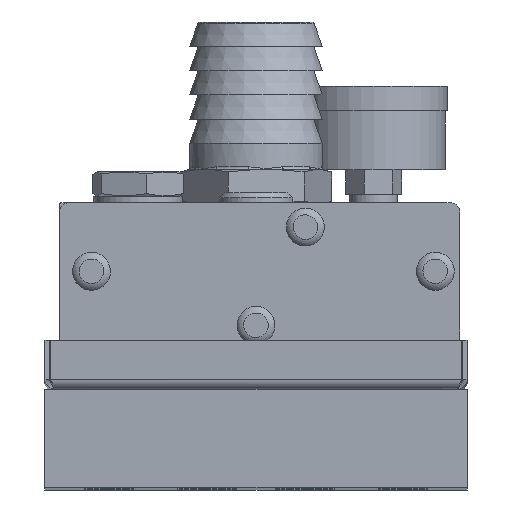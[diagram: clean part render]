
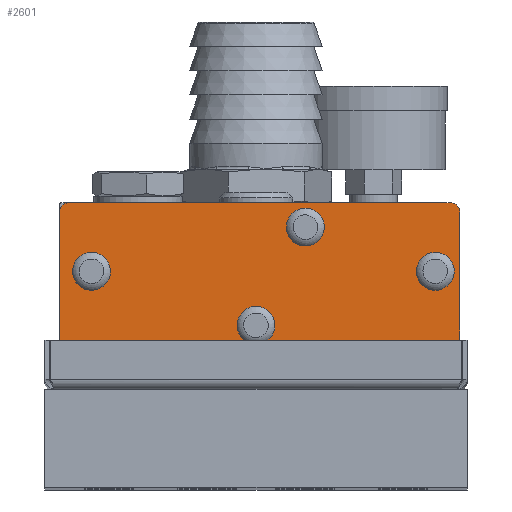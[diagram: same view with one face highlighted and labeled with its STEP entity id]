
A CAD part, top view. The second image highlights one B-rep face of the part: STEP entity #2601.
In plain terms, the highlighted planar face has unit normal (0, 0, 1).
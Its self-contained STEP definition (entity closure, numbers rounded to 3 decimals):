
#322 = ORIENTED_EDGE ( 'NONE', *, *, #2933, .T. ) ;
#352 = VECTOR ( 'NONE', #6079, 1000. ) ;
#636 = ORIENTED_EDGE ( 'NONE', *, *, #2866, .T. ) ;
#638 = VERTEX_POINT ( 'NONE', #2780 ) ;
#695 = DIRECTION ( 'NONE',  ( -1., 0., 0. ) ) ;
#748 = DIRECTION ( 'NONE',  ( 0., 0., -1. ) ) ;
#900 = PLANE ( 'NONE',  #1580 ) ;
#1188 = VERTEX_POINT ( 'NONE', #3245 ) ;
#1580 = AXIS2_PLACEMENT_3D ( 'NONE', #3494, #748, #695 ) ;
#1847 = CIRCLE ( 'NONE', #9292, 3.857 ) ;
#1917 = CARTESIAN_POINT ( 'NONE',  ( 39.5, 15., 151. ) ) ;
#2062 = AXIS2_PLACEMENT_3D ( 'NONE', #7618, #7592, #7578 ) ;
#2185 = LINE ( 'NONE', #5867, #7937 ) ;
#2316 = VERTEX_POINT ( 'NONE', #9026 ) ;
#2317 = ORIENTED_EDGE ( 'NONE', *, *, #2900, .T. ) ;
#2519 = ORIENTED_EDGE ( 'NONE', *, *, #3009, .T. ) ;
#2578 = CIRCLE ( 'NONE', #4779, 3.857 ) ;
#2601 = ADVANCED_FACE ( 'NONE', ( #10777, #10356, #10839, #10885, #10907 ), #900, .F. ) ;
#2780 = CARTESIAN_POINT ( 'NONE',  ( 41.5, 13., 151. ) ) ;
#2791 = VERTEX_POINT ( 'NONE', #9362 ) ;
#2866 = EDGE_CURVE ( 'NONE', #2791, #1188, #3696, .T. ) ;
#2900 = EDGE_CURVE ( 'NONE', #11012, #8521, #11097, .T. ) ;
#2933 = EDGE_CURVE ( 'NONE', #1188, #2316, #4070, .T. ) ;
#2937 = EDGE_CURVE ( 'NONE', #2316, #7658, #5272, .T. ) ;
#2955 = EDGE_CURVE ( 'NONE', #7658, #638, #2185, .T. ) ;
#2968 = EDGE_CURVE ( 'NONE', #638, #8734, #7444, .T. ) ;
#2978 = ORIENTED_EDGE ( 'NONE', *, *, #2968, .T. ) ;
#2989 = EDGE_CURVE ( 'NONE', #8734, #11012, #10902, .T. ) ;
#2992 = EDGE_CURVE ( 'NONE', #5428, #5428, #6174, .T. ) ;
#3008 = EDGE_CURVE ( 'NONE', #6244, #6244, #2578, .T. ) ;
#3009 = EDGE_CURVE ( 'NONE', #8662, #8662, #10425, .T. ) ;
#3029 = EDGE_CURVE ( 'NONE', #8552, #8552, #1847, .T. ) ;
#3051 = AXIS2_PLACEMENT_3D ( 'NONE', #5186, #5165, #5152 ) ;
#3245 = CARTESIAN_POINT ( 'NONE',  ( -38., -15., 151. ) ) ;
#3404 = EDGE_CURVE ( 'NONE', #8521, #2791, #7513, .T. ) ;
#3447 = AXIS2_PLACEMENT_3D ( 'NONE', #5946, #5934, #5922 ) ;
#3494 = CARTESIAN_POINT ( 'NONE',  ( -38., 13., 151. ) ) ;
#3627 = ORIENTED_EDGE ( 'NONE', *, *, #2955, .T. ) ;
#3696 = CIRCLE ( 'NONE', #2062, 2. ) ;
#4070 = LINE ( 'NONE', #6332, #352 ) ;
#4385 = DIRECTION ( 'NONE',  ( -1., 0., 0. ) ) ;
#4394 = ORIENTED_EDGE ( 'NONE', *, *, #2937, .T. ) ;
#4398 = DIRECTION ( 'NONE',  ( 0., 0., -1. ) ) ;
#4516 = CARTESIAN_POINT ( 'NONE',  ( 0., -10., 151. ) ) ;
#4601 = EDGE_LOOP ( 'NONE', ( #2519 ) ) ;
#4679 = DIRECTION ( 'NONE',  ( -1., 0., 0. ) ) ;
#4721 = DIRECTION ( 'NONE',  ( 0., 0., -1. ) ) ;
#4741 = CARTESIAN_POINT ( 'NONE',  ( -33.5, 1., 151. ) ) ;
#4779 = AXIS2_PLACEMENT_3D ( 'NONE', #4830, #4812, #4789 ) ;
#4789 = DIRECTION ( 'NONE',  ( -1., 0., 0. ) ) ;
#4812 = DIRECTION ( 'NONE',  ( 0., 0., -1. ) ) ;
#4830 = CARTESIAN_POINT ( 'NONE',  ( 36.5, 1., 151. ) ) ;
#4898 = EDGE_LOOP ( 'NONE', ( #2317, #10040, #636, #322, #4394, #3627, #2978, #10740 ) ) ;
#5152 = DIRECTION ( 'NONE',  ( -1., 0., 0. ) ) ;
#5165 = DIRECTION ( 'NONE',  ( 0., 0., -1. ) ) ;
#5186 = CARTESIAN_POINT ( 'NONE',  ( 10.05, 10., 151. ) ) ;
#5272 = CIRCLE ( 'NONE', #3447, 2. ) ;
#5297 = CARTESIAN_POINT ( 'NONE',  ( -38., 15., 151. ) ) ;
#5322 = DIRECTION ( 'NONE',  ( -1., 0., 0. ) ) ;
#5428 = VERTEX_POINT ( 'NONE', #7202 ) ;
#5474 = DIRECTION ( 'NONE',  ( 1., 0., 0. ) ) ;
#5493 = DIRECTION ( 'NONE',  ( 0., 0., 1. ) ) ;
#5504 = CARTESIAN_POINT ( 'NONE',  ( 39.5, 13., 151. ) ) ;
#5551 = ORIENTED_EDGE ( 'NONE', *, *, #2992, .T. ) ;
#5801 = DIRECTION ( 'NONE',  ( 0., 1., 0. ) ) ;
#5867 = CARTESIAN_POINT ( 'NONE',  ( 41.5, 13., 151. ) ) ;
#5922 = DIRECTION ( 'NONE',  ( 1., 0., 0. ) ) ;
#5934 = DIRECTION ( 'NONE',  ( 0., 0., 1. ) ) ;
#5946 = CARTESIAN_POINT ( 'NONE',  ( 39.5, -13., 151. ) ) ;
#6079 = DIRECTION ( 'NONE',  ( 1., 0., 0. ) ) ;
#6174 = CIRCLE ( 'NONE', #3051, 3.857 ) ;
#6244 = VERTEX_POINT ( 'NONE', #7177 ) ;
#6332 = CARTESIAN_POINT ( 'NONE',  ( -38., -15., 151. ) ) ;
#6421 = EDGE_LOOP ( 'NONE', ( #10074 ) ) ;
#6843 = DIRECTION ( 'NONE',  ( -1., 0., 0. ) ) ;
#6857 = DIRECTION ( 'NONE',  ( 0., 0., 1. ) ) ;
#6866 = CARTESIAN_POINT ( 'NONE',  ( -38., 13., 151. ) ) ;
#7149 = CARTESIAN_POINT ( 'NONE',  ( -3.857, -10., 151. ) ) ;
#7163 = CARTESIAN_POINT ( 'NONE',  ( -37.357, 1., 151. ) ) ;
#7177 = CARTESIAN_POINT ( 'NONE',  ( 32.643, 1., 151. ) ) ;
#7202 = CARTESIAN_POINT ( 'NONE',  ( 6.193, 10., 151. ) ) ;
#7353 = EDGE_LOOP ( 'NONE', ( #5551 ) ) ;
#7444 = CIRCLE ( 'NONE', #7603, 2. ) ;
#7513 = LINE ( 'NONE', #10366, #7915 ) ;
#7578 = DIRECTION ( 'NONE',  ( -1., 0., 0. ) ) ;
#7592 = DIRECTION ( 'NONE',  ( 0., 0., 1. ) ) ;
#7603 = AXIS2_PLACEMENT_3D ( 'NONE', #5504, #5493, #5474 ) ;
#7618 = CARTESIAN_POINT ( 'NONE',  ( -38., -13., 151. ) ) ;
#7658 = VERTEX_POINT ( 'NONE', #11003 ) ;
#7683 = CARTESIAN_POINT ( 'NONE',  ( -40., 13., 151. ) ) ;
#7796 = AXIS2_PLACEMENT_3D ( 'NONE', #6866, #6857, #6843 ) ;
#7915 = VECTOR ( 'NONE', #10382, 1000. ) ;
#7937 = VECTOR ( 'NONE', #5801, 1000. ) ;
#8394 = CARTESIAN_POINT ( 'NONE',  ( -38., 15., 151. ) ) ;
#8421 = VECTOR ( 'NONE', #5322, 1000. ) ;
#8521 = VERTEX_POINT ( 'NONE', #7683 ) ;
#8552 = VERTEX_POINT ( 'NONE', #7149 ) ;
#8662 = VERTEX_POINT ( 'NONE', #7163 ) ;
#8734 = VERTEX_POINT ( 'NONE', #1917 ) ;
#9026 = CARTESIAN_POINT ( 'NONE',  ( 39.5, -15., 151. ) ) ;
#9089 = AXIS2_PLACEMENT_3D ( 'NONE', #4741, #4721, #4679 ) ;
#9292 = AXIS2_PLACEMENT_3D ( 'NONE', #4516, #4398, #4385 ) ;
#9293 = EDGE_LOOP ( 'NONE', ( #11175 ) ) ;
#9362 = CARTESIAN_POINT ( 'NONE',  ( -40., -13., 151. ) ) ;
#10040 = ORIENTED_EDGE ( 'NONE', *, *, #3404, .T. ) ;
#10074 = ORIENTED_EDGE ( 'NONE', *, *, #3029, .T. ) ;
#10356 = FACE_BOUND ( 'NONE', #9293, .T. ) ;
#10366 = CARTESIAN_POINT ( 'NONE',  ( -40., 13., 151. ) ) ;
#10382 = DIRECTION ( 'NONE',  ( 0., -1., 0. ) ) ;
#10425 = CIRCLE ( 'NONE', #9089, 3.857 ) ;
#10740 = ORIENTED_EDGE ( 'NONE', *, *, #2989, .T. ) ;
#10777 = FACE_BOUND ( 'NONE', #7353, .T. ) ;
#10839 = FACE_BOUND ( 'NONE', #4601, .T. ) ;
#10885 = FACE_BOUND ( 'NONE', #6421, .T. ) ;
#10902 = LINE ( 'NONE', #5297, #8421 ) ;
#10907 = FACE_OUTER_BOUND ( 'NONE', #4898, .T. ) ;
#11003 = CARTESIAN_POINT ( 'NONE',  ( 41.5, -13., 151. ) ) ;
#11012 = VERTEX_POINT ( 'NONE', #8394 ) ;
#11097 = CIRCLE ( 'NONE', #7796, 2. ) ;
#11175 = ORIENTED_EDGE ( 'NONE', *, *, #3008, .T. ) ;
